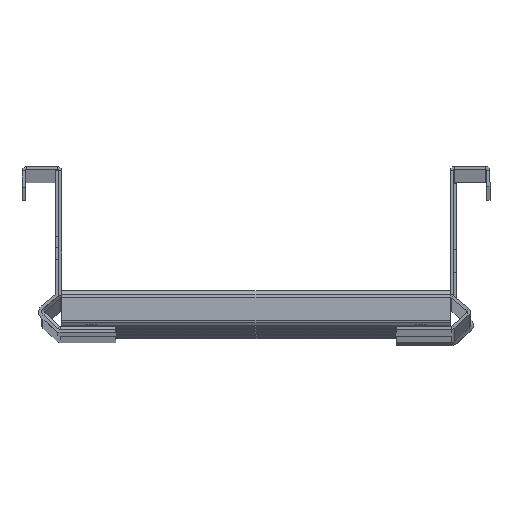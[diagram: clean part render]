
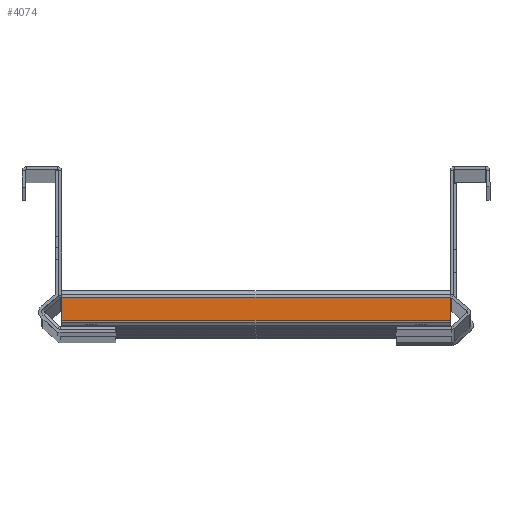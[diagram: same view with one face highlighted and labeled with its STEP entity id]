
A CAD part, top view. The second image highlights one B-rep face of the part: STEP entity #4074.
In plain terms, the highlighted planar face has unit normal (0, 0, 1) as drawn and (-1, 0, 0) by its records, which use the part's own axes.
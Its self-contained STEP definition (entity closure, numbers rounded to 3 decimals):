
#224 = VECTOR ( 'NONE', #2290, 1000. ) ;
#569 = CARTESIAN_POINT ( 'NONE',  ( -17.5, 2.5, 75. ) ) ;
#619 = CARTESIAN_POINT ( 'NONE',  ( -17.5, 2.5, -75. ) ) ;
#656 = ORIENTED_EDGE ( 'NONE', *, *, #3564, .T. ) ;
#829 = CARTESIAN_POINT ( 'NONE',  ( -17.5, 14., 75. ) ) ;
#1204 = EDGE_CURVE ( 'NONE', #1896, #2468, #2463, .T. ) ;
#1771 = AXIS2_PLACEMENT_3D ( 'NONE', #829, #3538, #5433 ) ;
#1772 = CARTESIAN_POINT ( 'NONE',  ( -17.5, 14., 75. ) ) ;
#1896 = VERTEX_POINT ( 'NONE', #4412 ) ;
#2181 = FACE_OUTER_BOUND ( 'NONE', #5786, .T. ) ;
#2290 = DIRECTION ( 'NONE',  ( 0., -1., 0. ) ) ;
#2326 = LINE ( 'NONE', #4110, #224 ) ;
#2463 = LINE ( 'NONE', #569, #4817 ) ;
#2468 = VERTEX_POINT ( 'NONE', #619 ) ;
#2709 = DIRECTION ( 'NONE',  ( 0., 0., -1. ) ) ;
#2734 = LINE ( 'NONE', #4101, #5745 ) ;
#3390 = VERTEX_POINT ( 'NONE', #5253 ) ;
#3538 = DIRECTION ( 'NONE',  ( 1., 0., 0. ) ) ;
#3564 = EDGE_CURVE ( 'NONE', #3390, #3877, #2734, .T. ) ;
#3604 = PLANE ( 'NONE',  #1771 ) ;
#3628 = DIRECTION ( 'NONE',  ( 0., -1., 0. ) ) ;
#3825 = DIRECTION ( 'NONE',  ( 0., 0., -1. ) ) ;
#3877 = VERTEX_POINT ( 'NONE', #5718 ) ;
#4074 = ADVANCED_FACE ( 'NONE', ( #2181 ), #3604, .F. ) ;
#4078 = LINE ( 'NONE', #1772, #4505 ) ;
#4101 = CARTESIAN_POINT ( 'NONE',  ( -17.5, 11.5, 75. ) ) ;
#4110 = CARTESIAN_POINT ( 'NONE',  ( -17.5, 14., -75. ) ) ;
#4412 = CARTESIAN_POINT ( 'NONE',  ( -17.5, 2.5, 75. ) ) ;
#4505 = VECTOR ( 'NONE', #3628, 1000. ) ;
#4654 = EDGE_CURVE ( 'NONE', #3877, #2468, #2326, .T. ) ;
#4746 = EDGE_CURVE ( 'NONE', #3390, #1896, #4078, .T. ) ;
#4817 = VECTOR ( 'NONE', #3825, 1000. ) ;
#5148 = ORIENTED_EDGE ( 'NONE', *, *, #4654, .T. ) ;
#5253 = CARTESIAN_POINT ( 'NONE',  ( -17.5, 11.5, 75. ) ) ;
#5265 = ORIENTED_EDGE ( 'NONE', *, *, #4746, .F. ) ;
#5433 = DIRECTION ( 'NONE',  ( 0., 0., -1. ) ) ;
#5718 = CARTESIAN_POINT ( 'NONE',  ( -17.5, 11.5, -75. ) ) ;
#5745 = VECTOR ( 'NONE', #2709, 1000. ) ;
#5786 = EDGE_LOOP ( 'NONE', ( #5148, #5839, #5265, #656 ) ) ;
#5839 = ORIENTED_EDGE ( 'NONE', *, *, #1204, .F. ) ;
